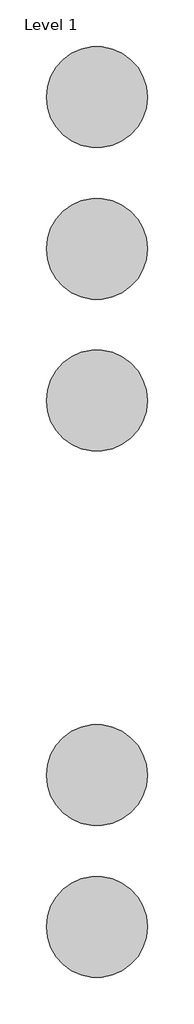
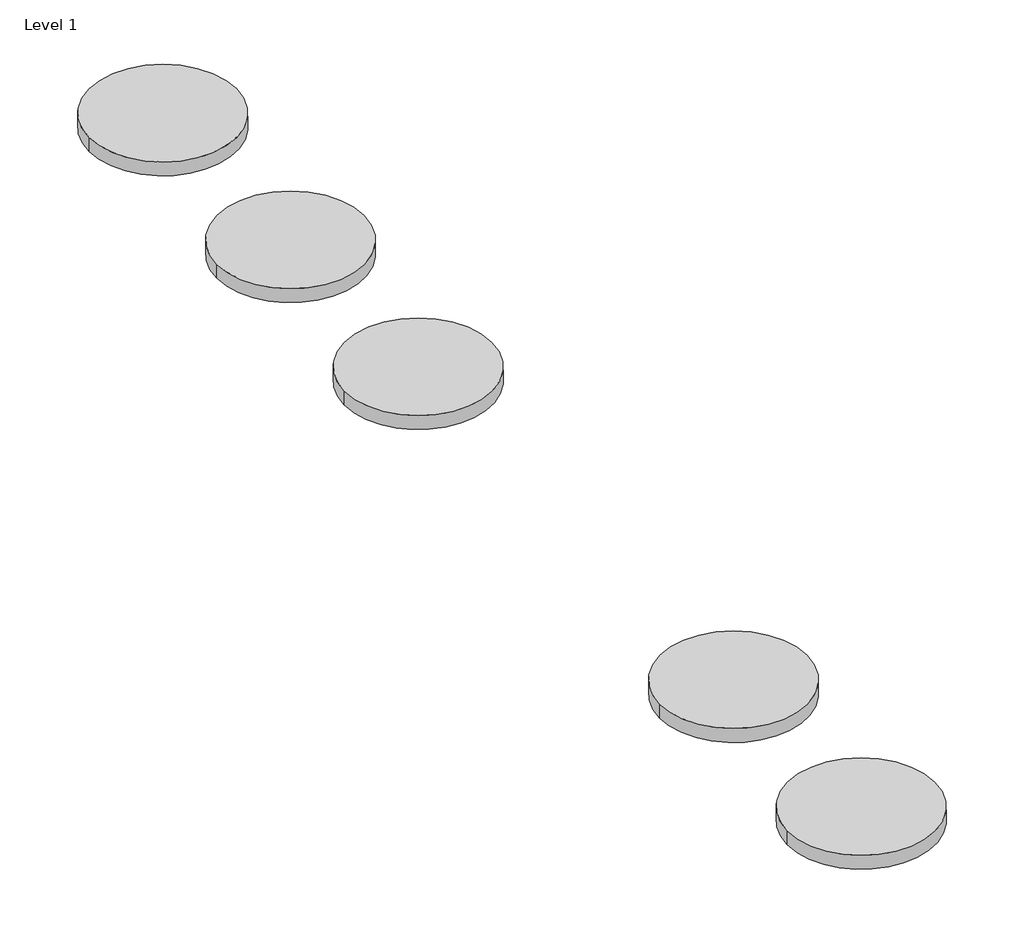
# One storey, incomplete: 5 proxies.
"""IFC4 building model written with IfcOpenShell, lengths in millimetres."""

from ifc_helpers import new_model, si_unit, origin, place, context, project, spatial, transform, mapped, element, save
from components import materialmodel_materialmodel_ac00f72a

model = new_model("IFC4")

# Units and contexts
model_context = context("Model", 3, world=origin())
ifc_project = project(units=[si_unit("LENGTHUNIT", "METRE", prefix="MILLI")], contexts=[model_context])

# Site, building, storey
site = spatial("IfcSite", under=ifc_project)
building = spatial("IfcBuilding", under=site)
storey = spatial("IfcBuildingStorey", under=building, Name="Level 1", Elevation=0.0)

# Proxies
placement = place(None, origin())
materialmodel_materialmodel_shape = materialmodel_materialmodel_ac00f72a(model_context)
element("IfcBuildingElementProxy", 1, Name="MaterialModel : MaterialModel", ObjectType="MaterialModel : MaterialModel", at=placement, inside=storey, context=model_context, shape_type="MappedRepresentation", body=[
    mapped(materialmodel_materialmodel_shape, transform((-10223.3497893, 6485.3376017, 0.0), x_axis=(1.0, 0.0, 0.0), y_axis=(0.0, 1.0, 0.0), z_axis=(0.0, 0.0, 1.0))),
])
element("IfcBuildingElementProxy", 2, Name="MaterialModel : MaterialModel", ObjectType="MaterialModel : MaterialModel", at=placement, inside=storey, context=model_context, shape_type="MappedRepresentation", body=[
    mapped(materialmodel_materialmodel_shape, transform((-10223.3497893, 6185.3376017, 0.0), x_axis=(1.0, 0.0, 0.0), y_axis=(0.0, 1.0, 0.0), z_axis=(0.0, 0.0, 1.0))),
])
element("IfcBuildingElementProxy", 3, Name="MaterialModel : MaterialModel", ObjectType="MaterialModel : MaterialModel", at=placement, inside=storey, context=model_context, shape_type="MappedRepresentation", body=[
    mapped(materialmodel_materialmodel_shape, transform((-10223.3497893, 5885.3376017, 0.0), x_axis=(1.0, 0.0, 0.0), y_axis=(0.0, 1.0, 0.0), z_axis=(0.0, 0.0, 1.0))),
])
element("IfcBuildingElementProxy", 4, Name="MaterialModel : MaterialModel", ObjectType="MaterialModel : MaterialModel", at=placement, inside=storey, context=model_context, shape_type="MappedRepresentation", body=[
    mapped(materialmodel_materialmodel_shape, transform((-10223.3497893, 5144.7116321, 0.0), x_axis=(1.0, 0.0, 0.0), y_axis=(0.0, 1.0, 0.0), z_axis=(0.0, 0.0, 1.0))),
])
element("IfcBuildingElementProxy", 5, Name="MaterialModel : MaterialModel", ObjectType="MaterialModel : MaterialModel", at=placement, inside=storey, context=model_context, shape_type="MappedRepresentation", body=[
    mapped(materialmodel_materialmodel_shape, transform((-10223.3497893, 4844.7116321, 0.0), x_axis=(1.0, 0.0, 0.0), y_axis=(0.0, 1.0, 0.0), z_axis=(0.0, 0.0, 1.0))),
])

save(model, "model.ifc")
